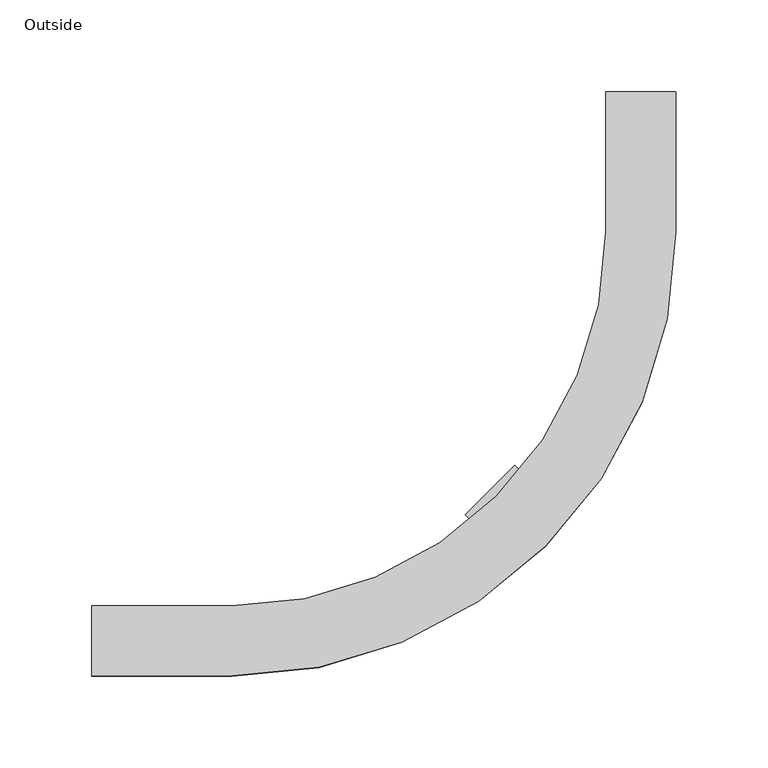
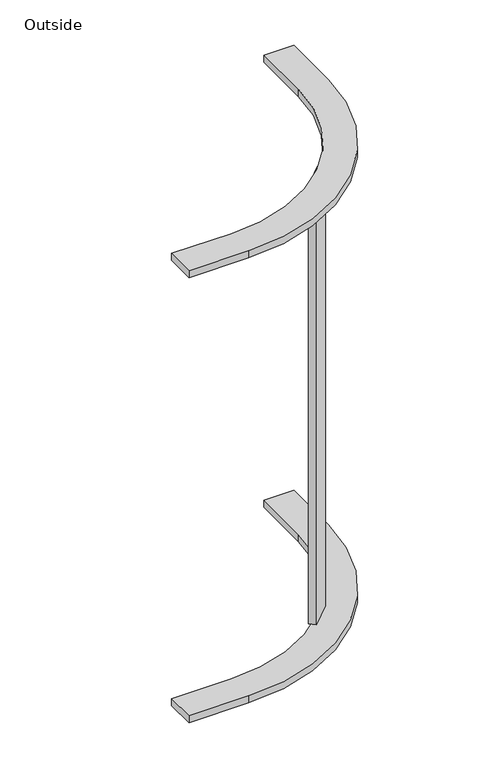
"""IFC4 building model written with IfcOpenShell, lengths in millimetres: cable carrier fitting geometry, Cable_Tray_Fitting-Bend-Chatsworth-Vertical : Outside."""

from ifc_helpers import new_model, si_unit, point, frame, frame_2d, origin, place, context, project, spatial, polyline, circle_curve, trimmed, segment, composite_curve, outline, extrude, source, transform, mapped, element, save


def outside_5760d18b(model_context):
    return source(origin(), model_context, "Body", "SweptSolid", [
        extrude(outline(polyline([(-68.4631139, 95.4038823), (-61.7279218, 88.6686902), (-88.6686902, 61.7279218), (-95.4038823, 68.4631139), (-68.4631139, 95.4038823)])), frame((0.0, 0.0, -295.275), z_axis=(0.0, 0.0, 1.0), x_axis=(1.0, 0.0, 0.0)), (0.0, 0.0, 1.0), 590.55),
        extrude(outline(composite_curve([segment(polyline([(-298.45, -19.05), (-298.45, 19.05), (-222.25, 19.05)]), True, "CONTINUOUS"), segment(trimmed(circle_curve(frame_2d((-222.25, 222.25)), 203.2), [point((-222.25, 19.05))], [point((-19.05, 222.25))], True, "CARTESIAN"), True, "CONTINUOUS"), segment(polyline([(-19.05, 222.25), (-19.05, 298.45), (19.05, 298.45), (19.05, 222.25)]), True, "CONTINUOUS"), segment(trimmed(circle_curve(frame_2d((-222.25, 222.25)), 241.3), [point((19.05, 222.25))], [point((-222.25, -19.05))], False, "CARTESIAN"), True, "CONTINUOUS"), segment(polyline([(-222.25, -19.05), (-298.45, -19.05)]), True, "CONTINUOUS")], self_intersect=False)), frame((0.0, 0.0, 295.275), z_axis=(0.0, 0.0, 1.0), x_axis=(1.0, 0.0, 0.0)), (0.0, 0.0, 1.0), 9.525),
        extrude(outline(composite_curve([segment(polyline([(-298.45, -19.05), (-298.45, 19.05), (-222.25, 19.05)]), True, "CONTINUOUS"), segment(trimmed(circle_curve(frame_2d((-222.25, 222.25)), 203.2), [point((-222.25, 19.05))], [point((-19.05, 222.25))], True, "CARTESIAN"), True, "CONTINUOUS"), segment(polyline([(-19.05, 222.25), (-19.05, 298.45), (19.05, 298.45), (19.05, 222.25)]), True, "CONTINUOUS"), segment(trimmed(circle_curve(frame_2d((-222.25, 222.25)), 241.3), [point((19.05, 222.25))], [point((-222.25, -19.05))], False, "CARTESIAN"), True, "CONTINUOUS"), segment(polyline([(-222.25, -19.05), (-298.45, -19.05)]), True, "CONTINUOUS")], self_intersect=False)), frame((0.0, 0.0, -304.8), z_axis=(0.0, 0.0, 1.0), x_axis=(1.0, 0.0, 0.0)), (0.0, 0.0, 1.0), 9.525),
    ])


if __name__ == "__main__":
    model = new_model("IFC4")
    model_context = context("Model", 3, world=origin())
    ifc_project = project(units=[si_unit("LENGTHUNIT", "METRE", prefix="MILLI")], contexts=[model_context])
    site = spatial("IfcSite", under=ifc_project)
    building = spatial("IfcBuilding", under=site)
    placement = place(None, origin())
    outside_shape = outside_5760d18b(model_context)
    element("IfcCableCarrierFitting", 1, ObjectType="Cable_Tray_Fitting-Bend-Chatsworth-Vertical : Outside", at=placement, inside=building, context=model_context, shape_type="MappedRepresentation", body=[
        mapped(outside_shape, transform((0.0, 0.0, 0.0), x_axis=(1.0, 0.0, 0.0), y_axis=(0.0, 1.0, 0.0), z_axis=(0.0, 0.0, 1.0))),
    ])
    save(model, "model.ifc")
